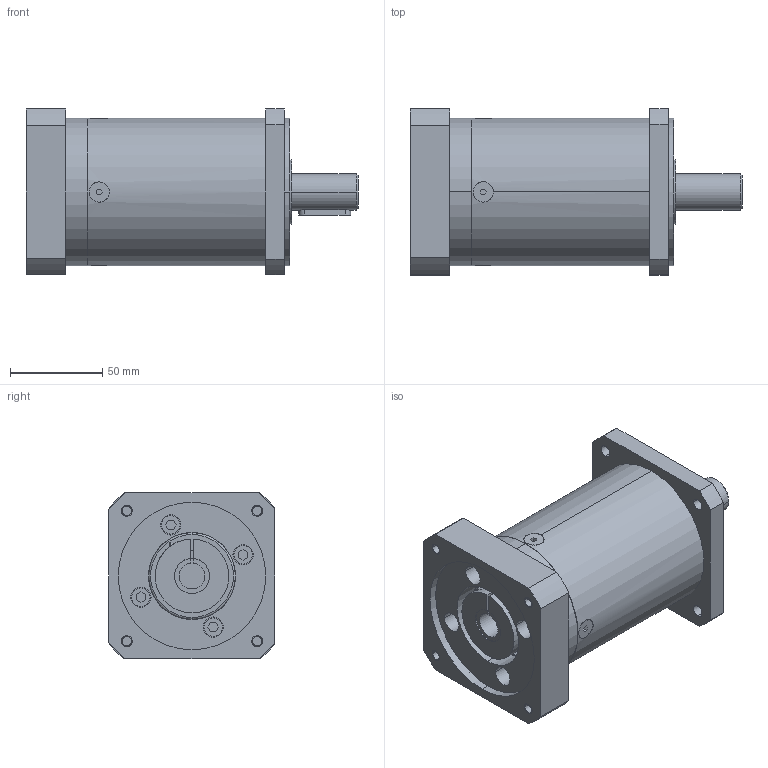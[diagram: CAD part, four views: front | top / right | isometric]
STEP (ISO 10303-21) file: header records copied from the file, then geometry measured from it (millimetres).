
FILE_DESCRIPTION((''),'2;1');
FILE_NAME('MB_PLE_MASTER','2019-10-25T',('agw'),(''),'CREO PARAMETRIC BY PTC INC, 2015290','CREO PARAMETRIC BY PTC INC, 2015290','');
FILE_SCHEMA(('AUTOMOTIVE_DESIGN { 1 0 10303 214 1 1 1 1 }'));
Length unit declared in the file: millimetre
Products named in the file (1): MB_PLE_MASTER
Bounding box: 180 x 90 x 90 mm (x, y, z)
Volume: 778401.7 mm3; surface area: 85078.8 mm2
Topology: 1 solids, 6 shells, 245 faces, 579 edges, 381 vertices
Faces by surface type: plane 127, cylinder 106, cone 6, torus 6
Entity records: 8191 total; most frequent: CARTESIAN_POINT 1396, DIRECTION 1285, ORIENTED_EDGE 1134, EDGE_CURVE 577, AXIS2_PLACEMENT_3D 473, VERTEX_POINT 381, VECTOR 339, LINE 339
